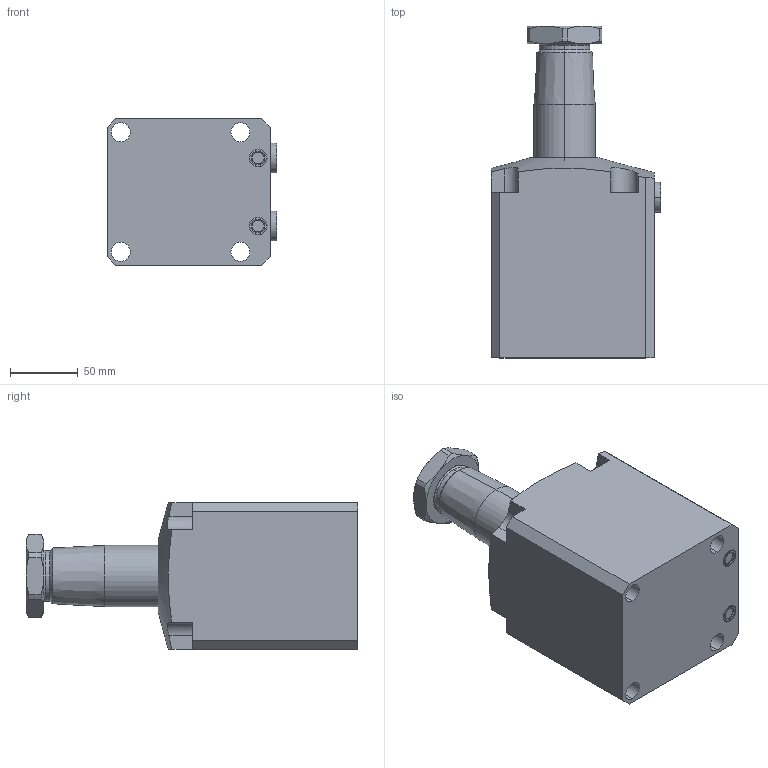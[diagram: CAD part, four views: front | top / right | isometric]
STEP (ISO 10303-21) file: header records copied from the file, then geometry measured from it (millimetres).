
FILE_DESCRIPTION(/* description */ (''),/* implementation_level */ '2;1');
FILE_NAME(/* name */ 'BRC25-R.stp',/* time_stamp */ '2025-01-05T09:25:07+08:00',/* author */ (''),/* organization */ (''),/* preprocessor_version */ 'ST-DEVELOPER v16.7',/* originating_system */ 'SIEMENS PLM Software NX 12.0',/* authorisation */ '');
FILE_SCHEMA (('AUTOMOTIVE_DESIGN { 1 0 10303 214 3 1 1 1 }'));
Length unit declared in the file: millimetre
Products named in the file (5): BRC25-R-03; BRC25-R-04; BRC25-R-02; BRC25-R-01; BRC25-R_stp
Assembly tree (5 placements, depth 2):
  BRC25-R_stp
    BRC25-R-01
    BRC25-R-02
    BRC25-R-04  x2
    BRC25-R-03
Bounding box: 124.8 x 244 x 108 mm (x, y, z)
Volume: 1852444.6 mm3; surface area: 140760.4 mm2
Topology: 7 solids, 7 shells, 176 faces, 401 edges, 248 vertices
Faces by surface type: plane 68, cylinder 57, cone 34, torus 16, sphere 1
Full cylindrical faces by diameter (mm): 13.15 x2
Entity records: 4661 total; most frequent: CARTESIAN_POINT 958, DIRECTION 778, ORIENTED_EDGE 712, EDGE_CURVE 356, AXIS2_PLACEMENT_3D 313, VERTEX_POINT 222, EDGE_LOOP 180, ADVANCED_FACE 156
